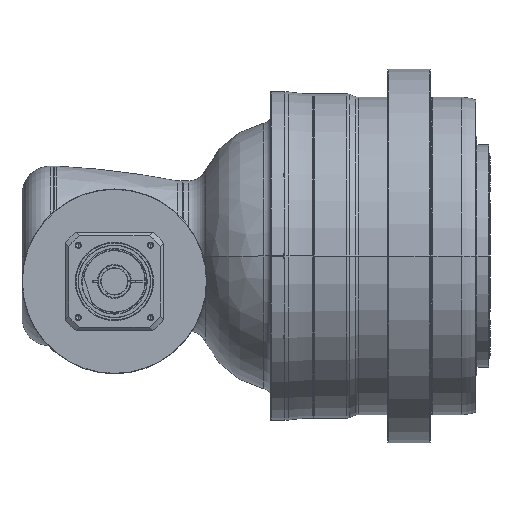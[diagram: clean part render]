
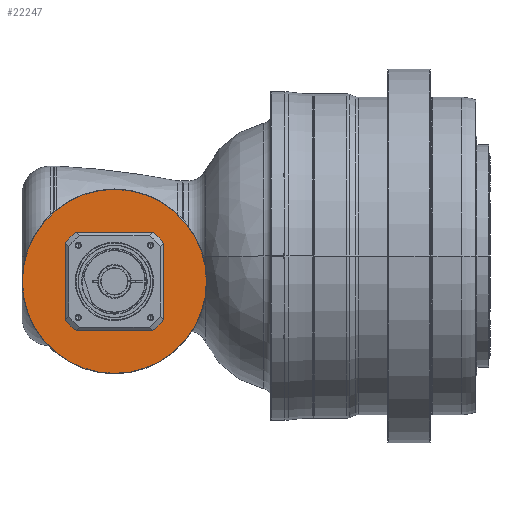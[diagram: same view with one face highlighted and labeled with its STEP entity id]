
A CAD part, front view. The second image highlights one B-rep face of the part: STEP entity #22247.
In plain terms, the highlighted planar face has unit normal (0, -1, 0) as drawn and (1, 0, 0) by its records, which use the part's own axes.
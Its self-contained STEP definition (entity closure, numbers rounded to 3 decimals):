
#20936=CARTESIAN_POINT('',(-3.5,0.,0.));
#20937=DIRECTION('',(-1.,0.,0.));
#20938=DIRECTION('',(0.,-1.,0.));
#20939=AXIS2_PLACEMENT_3D('',#20936,#20937,#20938);
#20941=CARTESIAN_POINT('',(-3.5,0.,0.));
#20942=DIRECTION('',(-1.,0.,0.));
#20943=DIRECTION('',(0.,1.,0.));
#20944=AXIS2_PLACEMENT_3D('',#20941,#20942,#20943);
#20946=CARTESIAN_POINT('',(-3.5,0.,0.));
#20947=DIRECTION('',(-1.,0.,0.));
#20948=DIRECTION('',(0.,-1.,0.));
#20949=AXIS2_PLACEMENT_3D('',#20946,#20947,#20948);
#20951=CARTESIAN_POINT('',(-3.5,0.,0.));
#20952=DIRECTION('',(-1.,0.,0.));
#20953=DIRECTION('',(0.,1.,0.));
#20954=AXIS2_PLACEMENT_3D('',#20951,#20952,#20953);
#21210=CARTESIAN_POINT('',(-3.5,-130.5,0.));
#21211=CARTESIAN_POINT('',(-3.5,130.5,0.));
#21212=VERTEX_POINT('',#21210);
#21213=VERTEX_POINT('',#21211);
#21226=CARTESIAN_POINT('',(-3.5,-70.,0.));
#21227=CARTESIAN_POINT('',(-3.5,70.,0.));
#21228=VERTEX_POINT('',#21226);
#21229=VERTEX_POINT('',#21227);
#22232=CARTESIAN_POINT('',(-3.5,0.,0.));
#22233=DIRECTION('',(1.,0.,0.));
#22234=DIRECTION('',(0.,-1.,0.));
#22235=AXIS2_PLACEMENT_3D('',#22232,#22233,#22234);
#22236=PLANE('',#22235);
#22237=ORIENTED_EDGE('',*,*,#22188,.T.);
#22238=ORIENTED_EDGE('',*,*,#22173,.T.);
#22239=EDGE_LOOP('',(#22237,#22238));
#22240=FACE_OUTER_BOUND('',#22239,.F.);
#22242=ORIENTED_EDGE('',*,*,#22241,.F.);
#22244=ORIENTED_EDGE('',*,*,#22243,.F.);
#22245=EDGE_LOOP('',(#22242,#22244));
#22246=FACE_BOUND('',#22245,.F.);
#22247=ADVANCED_FACE('',(#22240,#22246),#22236,.T.);
#20940=CIRCLE('',#20939,70.);
#20945=CIRCLE('',#20944,70.);
#20950=CIRCLE('',#20949,130.5);
#20955=CIRCLE('',#20954,130.5);
#22173=EDGE_CURVE('',#21213,#21212,#20955,.T.);
#22188=EDGE_CURVE('',#21212,#21213,#20950,.T.);
#22241=EDGE_CURVE('',#21228,#21229,#20940,.T.);
#22243=EDGE_CURVE('',#21229,#21228,#20945,.T.);
